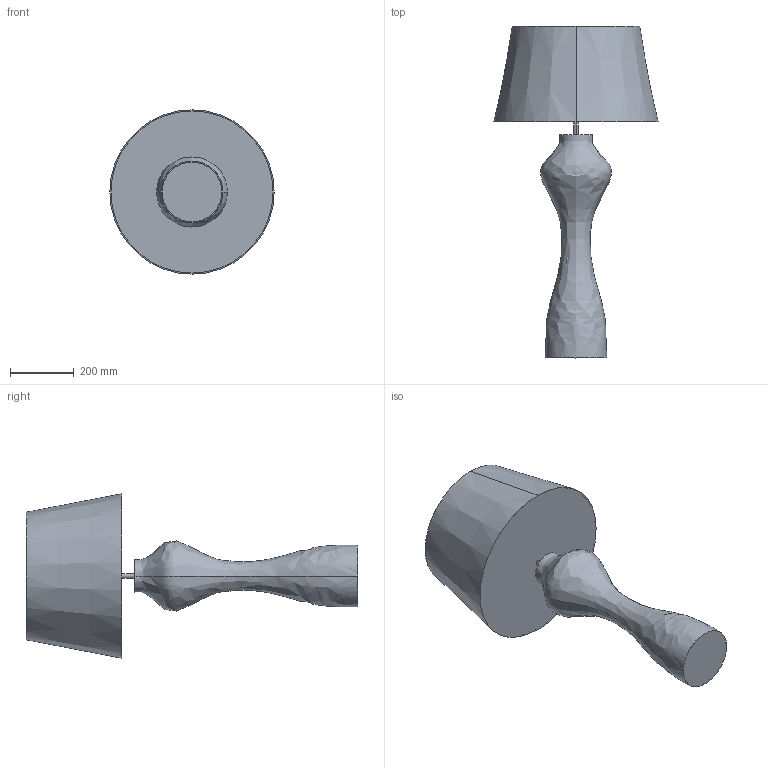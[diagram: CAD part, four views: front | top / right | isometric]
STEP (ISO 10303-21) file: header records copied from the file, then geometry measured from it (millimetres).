
FILE_DESCRIPTION (( 'STEP AP214' ), '1' );
FILE_NAME ('05.STEP', '2016-10-07T08:25:47', ( 'Tripiodiy' ), ( '' ), 'SwSTEP 2.0', 'SolidWorks 2016', '' );
FILE_SCHEMA (( 'AUTOMOTIVE_DESIGN' ));
Length unit declared in the file: millimetre
Products named in the file (1): 05
Bounding box: 515 x 1040 x 515 mm (x, y, z)
Volume: 3034991.9 mm3; surface area: 2027079.5 mm2
Topology: 1 solids, 1 shells, 20 faces, 38 edges, 24 vertices
Faces by surface type: cone 6, plane 6, bspline 4, cylinder 4
Entity records: 1276 total; most frequent: CARTESIAN_POINT 835, DIRECTION 92, ORIENTED_EDGE 76, AXIS2_PLACEMENT_3D 41, EDGE_CURVE 38, CIRCLE 24, VERTEX_POINT 24, EDGE_LOOP 24
